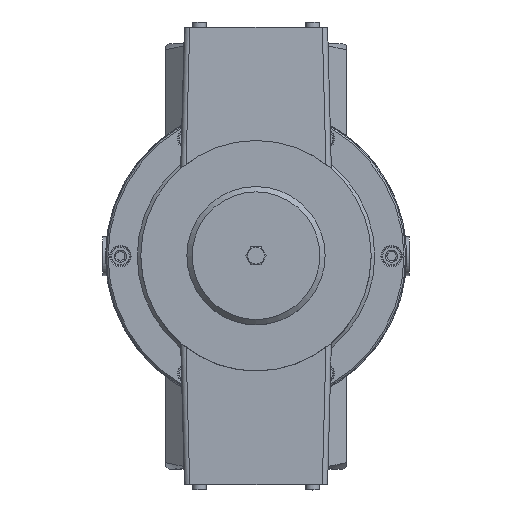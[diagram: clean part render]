
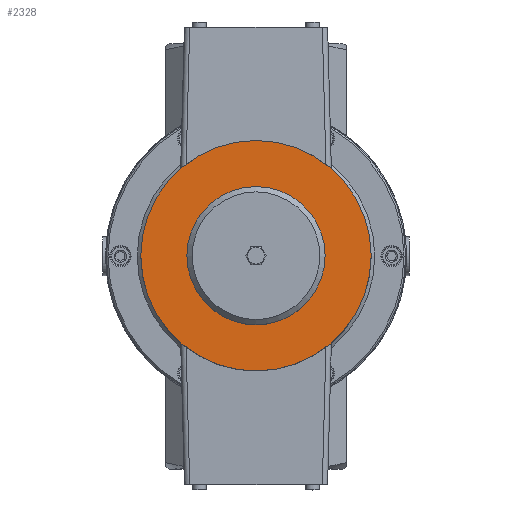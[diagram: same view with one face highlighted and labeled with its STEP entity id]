
A CAD part, top view. The second image highlights one B-rep face of the part: STEP entity #2328.
In plain terms, the highlighted planar face has unit normal (0, 0, 1).
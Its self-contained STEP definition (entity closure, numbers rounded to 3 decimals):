
#2328 = ADVANCED_FACE( '', ( #3683, #3684 ), #3685, .F. );
#3683 = FACE_BOUND( '', #6156, .T. );
#3684 = FACE_OUTER_BOUND( '', #6157, .T. );
#3685 = PLANE( '', #6158 );
#6156 = EDGE_LOOP( '', ( #9391 ) );
#6157 = EDGE_LOOP( '', ( #9392 ) );
#6158 = AXIS2_PLACEMENT_3D( '', #9393, #9394, #9395 );
#9391 = ORIENTED_EDGE( '', *, *, #10395, .F. );
#9392 = ORIENTED_EDGE( '', *, *, #10382, .F. );
#9393 = CARTESIAN_POINT( '', ( 0., 0., 120. ) );
#9394 = DIRECTION( '', ( 0., 0., -1. ) );
#9395 = DIRECTION( '', ( -1., 0., 0. ) );
#10382 = EDGE_CURVE( '', #11905, #11905, #11906, .T. );
#10395 = EDGE_CURVE( '', #11928, #11928, #11929, .T. );
#11905 = VERTEX_POINT( '', #15679 );
#11906 = CIRCLE( '', #15680, 65. );
#11928 = VERTEX_POINT( '', #15768 );
#11929 = CIRCLE( '', #15769, 26. );
#15679 = CARTESIAN_POINT( '', ( 65., 0., 120. ) );
#15680 = AXIS2_PLACEMENT_3D( '', #17368, #17369, #17370 );
#15768 = CARTESIAN_POINT( '', ( 0., 26., 120. ) );
#15769 = AXIS2_PLACEMENT_3D( '', #17383, #17384, #17385 );
#17368 = CARTESIAN_POINT( '', ( 0., 0., 120. ) );
#17369 = DIRECTION( '', ( 0., 0., -1. ) );
#17370 = DIRECTION( '', ( 1., 0., 0. ) );
#17383 = CARTESIAN_POINT( '', ( 0., 0., 120. ) );
#17384 = DIRECTION( '', ( 0., 0., 1. ) );
#17385 = DIRECTION( '', ( 0., 1., 0. ) );
